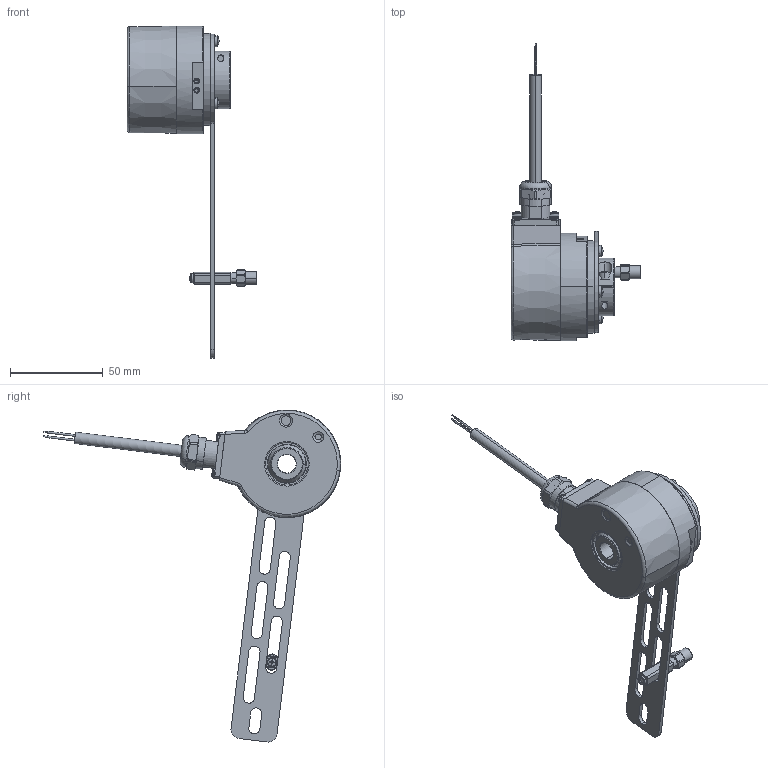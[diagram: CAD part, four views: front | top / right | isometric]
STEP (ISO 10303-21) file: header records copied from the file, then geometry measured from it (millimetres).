
FILE_DESCRIPTION (( 'STEP AP214' ), '1' );
FILE_NAME ('5834SIL.A3X2.XXXX.STEP', '2010-08-13T07:30:19', ( 'admin' ), ( 'Fritz Kübler GmbH' ), 'SwSTEP 2.0', 'SolidWorks 2009', '' );
FILE_SCHEMA (( 'AUTOMOTIVE_DESIGN' ));
Length unit declared in the file: millimetre
Products named in the file (1): 5834SIL.A3X2.XXXX
Bounding box: 70 x 160.21 x 178.83 mm (x, y, z)
Surface area: 34833.1 mm2 (no closed solid volume)
Topology: 0 solids, 24 shells, 420 faces, 1200 edges, 802 vertices
Faces by surface type: plane 168, cylinder 135, cone 77, torus 20, sphere 16, bspline 4
Entity records: 19264 total; most frequent: CARTESIAN_POINT 3467, DIRECTION 2494, ORIENTED_EDGE 2096, EDGE_CURVE 1200, AXIS2_PLACEMENT_3D 975, VERTEX_POINT 802, CIRCLE 558, VECTOR 544
